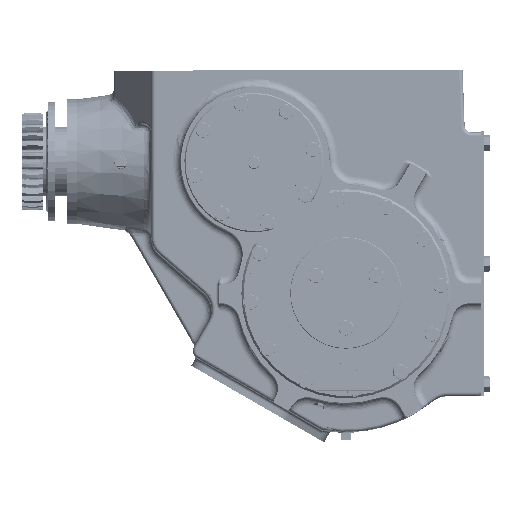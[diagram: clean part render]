
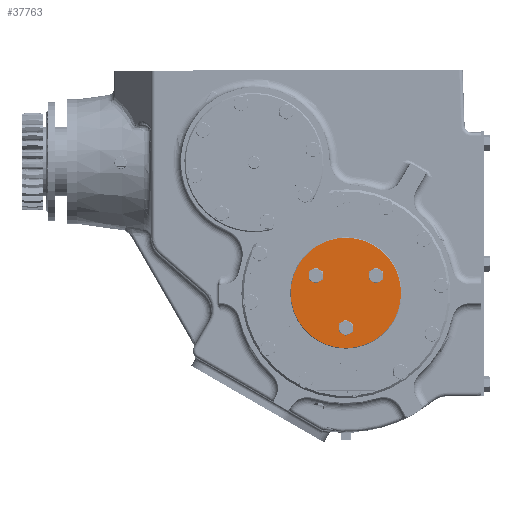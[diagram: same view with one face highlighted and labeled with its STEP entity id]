
A CAD part, top view. The second image highlights one B-rep face of the part: STEP entity #37763.
In plain terms, the highlighted planar face has unit normal (0, 0, 1) as drawn and (0, 0, -1) by its records, which use the part's own axes.
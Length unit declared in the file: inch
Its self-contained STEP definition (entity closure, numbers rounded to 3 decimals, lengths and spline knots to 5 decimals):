
#1750 = AXIS2_PLACEMENT_3D ( 'NONE', #25231, #229625, #68140 ) ;
#5807 = VERTEX_POINT ( 'NONE', #170102 ) ;
#9620 = CARTESIAN_POINT ( 'NONE',  ( 1.3583, -0.9375, 0. ) ) ;
#12560 = FACE_OUTER_BOUND ( 'NONE', #66836, .T. ) ;
#15637 = CARTESIAN_POINT ( 'NONE',  ( 0., 0., 0. ) ) ;
#16863 = EDGE_LOOP ( 'NONE', ( #72170, #169567 ) ) ;
#19185 = EDGE_CURVE ( 'NONE', #99732, #203392, #229755, .T. ) ;
#21674 = CIRCLE ( 'NONE', #92097, 0.2655 ) ;
#25231 = CARTESIAN_POINT ( 'NONE',  ( 0., 0., 0. ) ) ;
#28958 = DIRECTION ( 'NONE',  ( -1., 0., 0. ) ) ;
#31142 = PLANE ( 'NONE',  #207871 ) ;
#34502 = CIRCLE ( 'NONE', #1750, 2.97 ) ;
#37763 = ADVANCED_FACE ( 'NONE', ( #12560, #84496, #155406, #140291 ), #31142, .F. ) ;
#40378 = EDGE_CURVE ( 'NONE', #5807, #74287, #179381, .T. ) ;
#40605 = AXIS2_PLACEMENT_3D ( 'NONE', #209788, #87723, #229543 ) ;
#43818 = ORIENTED_EDGE ( 'NONE', *, *, #217990, .F. ) ;
#43944 = DIRECTION ( 'NONE',  ( 0., 0., -1. ) ) ;
#44623 = DIRECTION ( 'NONE',  ( -1., 0., 0. ) ) ;
#46432 = CARTESIAN_POINT ( 'NONE',  ( 0., -2.97, 0. ) ) ;
#47416 = ORIENTED_EDGE ( 'NONE', *, *, #68471, .F. ) ;
#49704 = DIRECTION ( 'NONE',  ( 0., 0., 1. ) ) ;
#50103 = CARTESIAN_POINT ( 'NONE',  ( -1.6238, -0.9375, 0. ) ) ;
#51238 = VERTEX_POINT ( 'NONE', #46432 ) ;
#56761 = CARTESIAN_POINT ( 'NONE',  ( 1.6238, -0.9375, 0. ) ) ;
#57663 = EDGE_CURVE ( 'NONE', #136188, #51238, #34502, .T. ) ;
#62863 = AXIS2_PLACEMENT_3D ( 'NONE', #50103, #190616, #116395 ) ;
#66836 = EDGE_LOOP ( 'NONE', ( #47416, #168318 ) ) ;
#67627 = CARTESIAN_POINT ( 'NONE',  ( -0.2655, 1.875, 0. ) ) ;
#68140 = DIRECTION ( 'NONE',  ( 0., -1., 0. ) ) ;
#68471 = EDGE_CURVE ( 'NONE', #51238, #136188, #197482, .T. ) ;
#72170 = ORIENTED_EDGE ( 'NONE', *, *, #74686, .F. ) ;
#73582 = EDGE_LOOP ( 'NONE', ( #103599, #156322 ) ) ;
#74287 = VERTEX_POINT ( 'NONE', #67627 ) ;
#74686 = EDGE_CURVE ( 'NONE', #74287, #5807, #188280, .T. ) ;
#81126 = CIRCLE ( 'NONE', #122021, 0.2655 ) ;
#84496 = FACE_BOUND ( 'NONE', #73582, .T. ) ;
#87723 = DIRECTION ( 'NONE',  ( 0., 0., -1. ) ) ;
#92097 = AXIS2_PLACEMENT_3D ( 'NONE', #170620, #158692, #28958 ) ;
#99732 = VERTEX_POINT ( 'NONE', #197122 ) ;
#99869 = DIRECTION ( 'NONE',  ( 0., 0., 1. ) ) ;
#101913 = CARTESIAN_POINT ( 'NONE',  ( 0., 0., 0. ) ) ;
#103599 = ORIENTED_EDGE ( 'NONE', *, *, #220166, .F. ) ;
#114789 = DIRECTION ( 'NONE',  ( -1., 0., 0. ) ) ;
#115464 = DIRECTION ( 'NONE',  ( 0., 0., -1. ) ) ;
#116395 = DIRECTION ( 'NONE',  ( -1., 0., 0. ) ) ;
#122021 = AXIS2_PLACEMENT_3D ( 'NONE', #56761, #162446, #215885 ) ;
#132218 = CARTESIAN_POINT ( 'NONE',  ( 0., 1.875, 0. ) ) ;
#133255 = CIRCLE ( 'NONE', #40605, 0.2655 ) ;
#136188 = VERTEX_POINT ( 'NONE', #196908 ) ;
#140291 = FACE_BOUND ( 'NONE', #16863, .T. ) ;
#150112 = EDGE_CURVE ( 'NONE', #218465, #189659, #133255, .T. ) ;
#152617 = CARTESIAN_POINT ( 'NONE',  ( 0., 1.875, 0. ) ) ;
#155406 = FACE_BOUND ( 'NONE', #161003, .T. ) ;
#156322 = ORIENTED_EDGE ( 'NONE', *, *, #150112, .F. ) ;
#158686 = AXIS2_PLACEMENT_3D ( 'NONE', #132218, #43944, #114789 ) ;
#158692 = DIRECTION ( 'NONE',  ( 0., 0., -1. ) ) ;
#161003 = EDGE_LOOP ( 'NONE', ( #208280, #43818 ) ) ;
#162446 = DIRECTION ( 'NONE',  ( 0., 0., -1. ) ) ;
#164172 = AXIS2_PLACEMENT_3D ( 'NONE', #15637, #99869, #183605 ) ;
#167552 = CARTESIAN_POINT ( 'NONE',  ( 1.8893, -0.9375, 0. ) ) ;
#168318 = ORIENTED_EDGE ( 'NONE', *, *, #57663, .F. ) ;
#169567 = ORIENTED_EDGE ( 'NONE', *, *, #40378, .F. ) ;
#170102 = CARTESIAN_POINT ( 'NONE',  ( 0.2655, 1.875, 0. ) ) ;
#170620 = CARTESIAN_POINT ( 'NONE',  ( -1.6238, -0.9375, 0. ) ) ;
#172081 = AXIS2_PLACEMENT_3D ( 'NONE', #152617, #115464, #44623 ) ;
#179381 = CIRCLE ( 'NONE', #172081, 0.2655 ) ;
#183605 = DIRECTION ( 'NONE',  ( 0., -1., 0. ) ) ;
#188280 = CIRCLE ( 'NONE', #158686, 0.2655 ) ;
#189659 = VERTEX_POINT ( 'NONE', #9620 ) ;
#190616 = DIRECTION ( 'NONE',  ( 0., 0., -1. ) ) ;
#191342 = DIRECTION ( 'NONE',  ( 1., 0., 0. ) ) ;
#196908 = CARTESIAN_POINT ( 'NONE',  ( 0., 2.97, 0. ) ) ;
#197122 = CARTESIAN_POINT ( 'NONE',  ( -1.8893, -0.9375, 0. ) ) ;
#197482 = CIRCLE ( 'NONE', #164172, 2.97 ) ;
#203392 = VERTEX_POINT ( 'NONE', #217378 ) ;
#207871 = AXIS2_PLACEMENT_3D ( 'NONE', #101913, #49704, #191342 ) ;
#208280 = ORIENTED_EDGE ( 'NONE', *, *, #19185, .F. ) ;
#209788 = CARTESIAN_POINT ( 'NONE',  ( 1.6238, -0.9375, 0. ) ) ;
#215885 = DIRECTION ( 'NONE',  ( -1., 0., 0. ) ) ;
#217378 = CARTESIAN_POINT ( 'NONE',  ( -1.3583, -0.9375, 0. ) ) ;
#217990 = EDGE_CURVE ( 'NONE', #203392, #99732, #21674, .T. ) ;
#218465 = VERTEX_POINT ( 'NONE', #167552 ) ;
#220166 = EDGE_CURVE ( 'NONE', #189659, #218465, #81126, .T. ) ;
#229543 = DIRECTION ( 'NONE',  ( -1., 0., 0. ) ) ;
#229625 = DIRECTION ( 'NONE',  ( 0., 0., 1. ) ) ;
#229755 = CIRCLE ( 'NONE', #62863, 0.2655 ) ;
